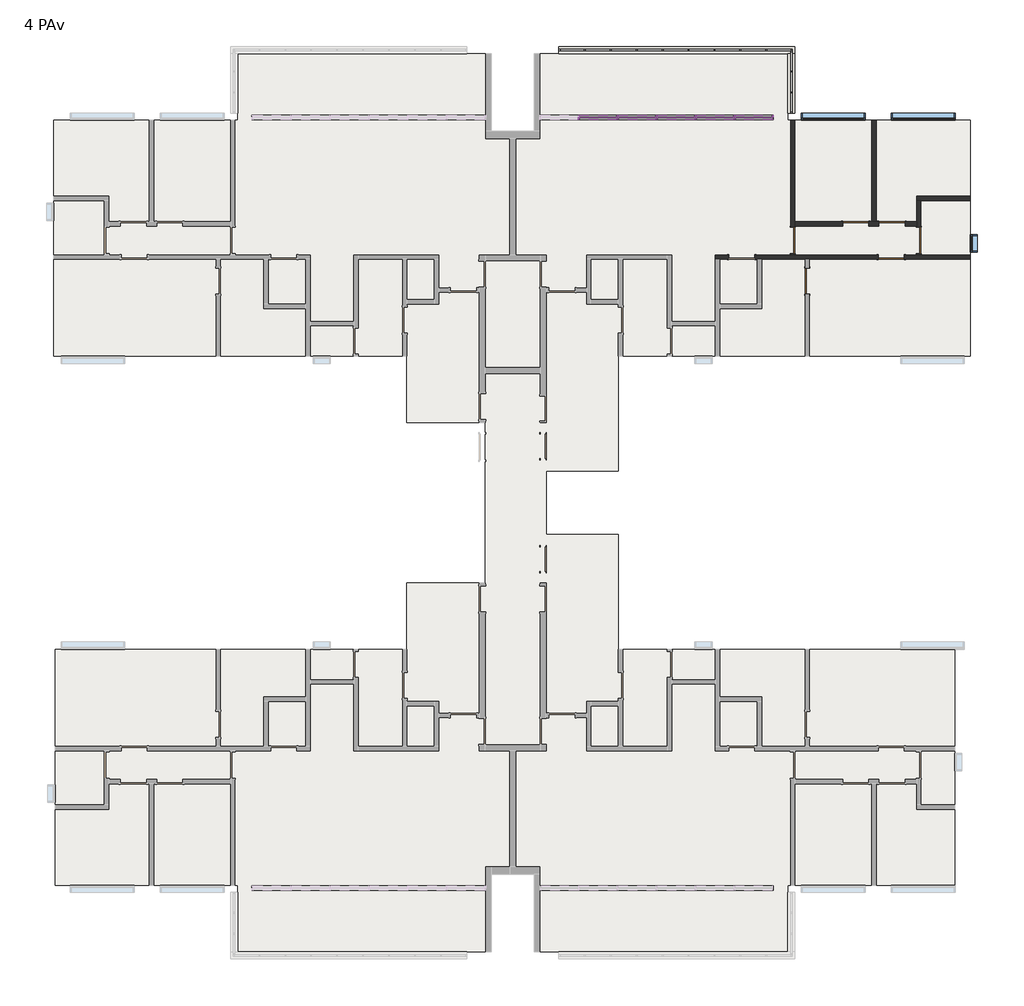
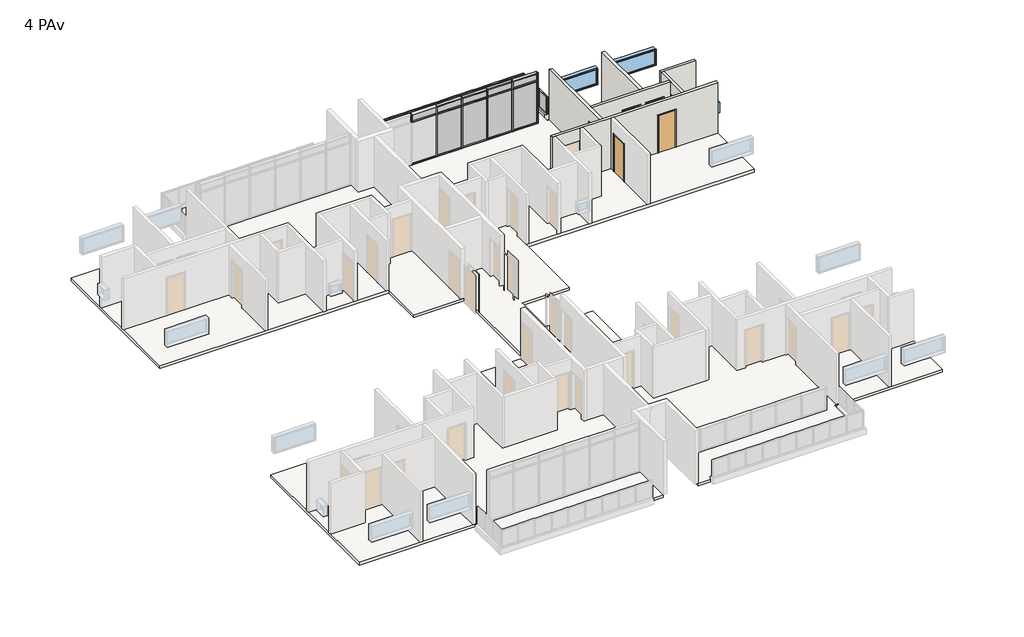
# One storey, part 6 of 6: 63 members, 21 plates, 8 walls, 6 doors, 3 windows, 1 slab.
"""IFC4 building model written with IfcOpenShell, lengths in millimetres."""

from ifc_helpers import new_model, si_unit, frame, origin, place, context, project, spatial, polyline, outline, extrude, faceted_brep, transform, mapped, element, save
from components import door_90_x_210_ee935524, door_90_x_210_565370b3, montante_retangular_50_mm_quadrado_84e40a56, montante_retangular_50_mm_quadrado_3d152aff, montante_retangular_50_mm_quadrado_a01005a4, montante_retangular_50_mm_quadrado_ddd80bd7, montante_retangular_50_mm_quadrado_4acded50, montante_retangular_50_mm_quadrado_237d7072, montante_retangular_50_x_150_mm_6217edde, montante_retangular_50_x_150_mm_a22249d7, montante_retangular_50_x_150_mm_6225e4e3, montante_retangular_50_x_150_mm_0a8c3443, montante_retangular_50_x_150_mm_567eccab, montante_retangular_50_x_150_mm_1ca2bba2, montante_retangular_50_x_150_mm_6abf4531, montante_retangular_50_x_150_mm_662c37b1, painel_do_sistema_0196877a, painel_do_sistema_2aa81470, painel_do_sistema_57ceaf50, painel_do_sistema_ab0ed719, painel_do_sistema_1ecb5f42, painel_do_sistema_49db1829, painel_do_sistema_5ea5287b, painel_do_sistema_7730abee, window_0610_x_0610_mm_b5667cc9, window_220_x_90_cea65aae

model = new_model("IFC4")

# Units and contexts
model_context = context("Model", 3, world=origin())
ifc_project = project(units=[si_unit("LENGTHUNIT", "METRE", prefix="MILLI")], contexts=[model_context])

# Site, building, storey
site = spatial("IfcSite", under=ifc_project)
building = spatial("IfcBuilding", under=site)
storey = spatial("IfcBuildingStorey", under=building, Name="4 PAv", Elevation=12000.0)

# Doors
placement = place(None, origin())
door_90_x_210_shape = door_90_x_210_ee935524(model_context)
element("IfcDoor", 1, ObjectType="M_Descarga simples : 90 x 210", at=placement, inside=storey, context=model_context, shape_type="MappedRepresentation", body=[
    mapped(door_90_x_210_shape, transform((9138.7734258, 8433.6614625, 12000.0), x_axis=(0.0, 1.0, 0.0), y_axis=(-1.0, 0.0, 0.0), z_axis=(0.0, 0.0, 1.0))),
])
element("IfcDoor", 2, ObjectType="M_Descarga simples : 90 x 210", at=placement, inside=storey, context=model_context, shape_type="MappedRepresentation", body=[
    mapped(door_90_x_210_shape, transform((8638.7734258, 9833.6614625, 12000.0), x_axis=(0.0, -1.0, 0.0), y_axis=(1.0, 0.0, 0.0), z_axis=(0.0, 0.0, 1.0))),
])
element("IfcDoor", 3, ObjectType="M_Descarga simples : 90 x 210", at=placement, inside=storey, context=model_context, shape_type="MappedRepresentation", body=[
    mapped(door_90_x_210_shape, transform((12988.7734258, 9833.6614625, 12000.0), x_axis=(0.0, -1.0, 0.0), y_axis=(1.0, 0.0, 0.0), z_axis=(0.0, 0.0, 1.0))),
])
element("IfcDoor", 4, ObjectType="M_Descarga simples : 90 x 210", at=placement, inside=storey, context=model_context, shape_type="MappedRepresentation", body=[
    mapped(door_90_x_210_shape, transform((10813.7734258, 10408.6614625, 12000.0), x_axis=(1.0, 0.0, 0.0), y_axis=(0.0, 1.0, 0.0), z_axis=(0.0, 0.0, 1.0))),
])
door_90_x_210_2_shape = door_90_x_210_565370b3(model_context)
element("IfcDoor", 5, ObjectType="M_Descarga simples : 90 x 210", at=placement, inside=storey, context=model_context, shape_type="MappedRepresentation", body=[
    mapped(door_90_x_210_2_shape, transform((12063.7734258, 10408.6614625, 12000.0), x_axis=(-1.0, 0.0, 0.0), y_axis=(0.0, -1.0, 0.0), z_axis=(0.0, 0.0, 1.0))),
])
element("IfcDoor", 6, ObjectType="M_Descarga simples : 90 x 210", at=placement, inside=storey, context=model_context, shape_type="MappedRepresentation", body=[
    mapped(door_90_x_210_2_shape, transform((12043.7734258, 9258.6614625, 12000.0), x_axis=(1.0, 0.0, 0.0), y_axis=(0.0, 1.0, 0.0), z_axis=(0.0, 0.0, 1.0))),
])

# Members
montante_retangular_50_mm_quadrado_shape = montante_retangular_50_mm_quadrado_84e40a56(model_context)
element("IfcMember", 7, ObjectType="Montante retangular : 50 mm Quadrado", at=placement, inside=storey, context=model_context, shape_type="MappedRepresentation", body=[
    mapped(montante_retangular_50_mm_quadrado_shape, transform((8588.7734258, 15663.6614625, 12150.0), x_axis=(0.0, -1.0, 0.0), y_axis=(-1.0, 0.0, 0.0), z_axis=(0.0, 0.0, -1.0))),
])
element("IfcMember", 8, ObjectType="Montante retangular : 50 mm Quadrado", at=placement, inside=storey, context=model_context, shape_type="MappedRepresentation", body=[
    mapped(montante_retangular_50_mm_quadrado_shape, transform((8588.7734258, 14948.6614625, 12150.0), x_axis=(0.0, -1.0, 0.0), y_axis=(-1.0, 0.0, 0.0), z_axis=(0.0, 0.0, -1.0))),
])
element("IfcMember", 9, ObjectType="Montante retangular : 50 mm Quadrado", at=placement, inside=storey, context=model_context, shape_type="MappedRepresentation", body=[
    mapped(montante_retangular_50_mm_quadrado_shape, transform((1453.7734258, 16403.6614625, 12150.0), x_axis=(1.0, 0.0, 0.0), y_axis=(0.0, -1.0, 0.0), z_axis=(0.0, 0.0, -1.0))),
])
element("IfcMember", 10, ObjectType="Montante retangular : 50 mm Quadrado", at=placement, inside=storey, context=model_context, shape_type="MappedRepresentation", body=[
    mapped(montante_retangular_50_mm_quadrado_shape, transform((2348.7734258, 16403.6614625, 12150.0), x_axis=(1.0, 0.0, 0.0), y_axis=(0.0, -1.0, 0.0), z_axis=(0.0, 0.0, -1.0))),
])
element("IfcMember", 11, ObjectType="Montante retangular : 50 mm Quadrado", at=placement, inside=storey, context=model_context, shape_type="MappedRepresentation", body=[
    mapped(montante_retangular_50_mm_quadrado_shape, transform((3243.7734258, 16403.6614625, 12150.0), x_axis=(1.0, 0.0, 0.0), y_axis=(0.0, -1.0, 0.0), z_axis=(0.0, 0.0, -1.0))),
])
element("IfcMember", 12, ObjectType="Montante retangular : 50 mm Quadrado", at=placement, inside=storey, context=model_context, shape_type="MappedRepresentation", body=[
    mapped(montante_retangular_50_mm_quadrado_shape, transform((4138.7734258, 16403.6614625, 12150.0), x_axis=(1.0, 0.0, 0.0), y_axis=(0.0, -1.0, 0.0), z_axis=(0.0, 0.0, -1.0))),
])
element("IfcMember", 13, ObjectType="Montante retangular : 50 mm Quadrado", at=placement, inside=storey, context=model_context, shape_type="MappedRepresentation", body=[
    mapped(montante_retangular_50_mm_quadrado_shape, transform((5033.7734258, 16403.6614625, 12150.0), x_axis=(1.0, 0.0, 0.0), y_axis=(0.0, -1.0, 0.0), z_axis=(0.0, 0.0, -1.0))),
])
element("IfcMember", 14, ObjectType="Montante retangular : 50 mm Quadrado", at=placement, inside=storey, context=model_context, shape_type="MappedRepresentation", body=[
    mapped(montante_retangular_50_mm_quadrado_shape, transform((5928.7734258, 16403.6614625, 12150.0), x_axis=(1.0, 0.0, 0.0), y_axis=(0.0, -1.0, 0.0), z_axis=(0.0, 0.0, -1.0))),
])
element("IfcMember", 15, ObjectType="Montante retangular : 50 mm Quadrado", at=placement, inside=storey, context=model_context, shape_type="MappedRepresentation", body=[
    mapped(montante_retangular_50_mm_quadrado_shape, transform((6823.7734258, 16403.6614625, 12150.0), x_axis=(1.0, 0.0, 0.0), y_axis=(0.0, -1.0, 0.0), z_axis=(0.0, 0.0, -1.0))),
])
element("IfcMember", 16, ObjectType="Montante retangular : 50 mm Quadrado", at=placement, inside=storey, context=model_context, shape_type="MappedRepresentation", body=[
    mapped(montante_retangular_50_mm_quadrado_shape, transform((7718.7734258, 16403.6614625, 12150.0), x_axis=(1.0, 0.0, 0.0), y_axis=(0.0, -1.0, 0.0), z_axis=(0.0, 0.0, -1.0))),
])
montante_retangular_50_mm_quadrado_2_shape = montante_retangular_50_mm_quadrado_3d152aff(model_context)
element("IfcMember", 17, ObjectType="Montante retangular : 50 mm Quadrado", at=placement, inside=storey, context=model_context, shape_type="MappedRepresentation", body=[
    mapped(montante_retangular_50_mm_quadrado_2_shape, transform((8588.7734258, 14233.6614625, 12150.0), x_axis=(0.0, -1.0, 0.0), y_axis=(-1.0, 0.0, 0.0), z_axis=(0.0, 0.0, -1.0))),
])
element("IfcMember", 18, ObjectType="Montante retangular : 50 mm Quadrado", at=placement, inside=storey, context=model_context, shape_type="MappedRepresentation", body=[
    mapped(montante_retangular_50_mm_quadrado_2_shape, transform((8613.7734258, 16403.6614625, 12150.0), x_axis=(1.0, 0.0, 0.0), y_axis=(0.0, -1.0, 0.0), z_axis=(0.0, 0.0, -1.0))),
])
element("IfcMember", 19, ObjectType="Montante retangular : 50 mm Quadrado", at=placement, inside=storey, context=model_context, shape_type="MappedRepresentation", body=[
    mapped(montante_retangular_50_mm_quadrado_2_shape, transform((8588.7734258, 16378.6614625, 13150.0), x_axis=(0.0, 1.0, 0.0), y_axis=(-1.0, 0.0, 0.0), z_axis=(0.0, 0.0, 1.0))),
])
element("IfcMember", 20, ObjectType="Montante retangular : 50 mm Quadrado", at=placement, inside=storey, context=model_context, shape_type="MappedRepresentation", body=[
    mapped(montante_retangular_50_mm_quadrado_2_shape, transform((558.7734258, 16403.6614625, 13150.0), x_axis=(-1.0, 0.0, 0.0), y_axis=(0.0, -1.0, 0.0), z_axis=(0.0, 0.0, 1.0))),
])
montante_retangular_50_mm_quadrado_3_shape = montante_retangular_50_mm_quadrado_a01005a4(model_context)
element("IfcMember", 21, ObjectType="Montante retangular : 50 mm Quadrado", at=placement, inside=storey, context=model_context, shape_type="MappedRepresentation", body=[
    mapped(montante_retangular_50_mm_quadrado_3_shape, transform((8588.7734258, 14283.6614625, 13150.0), x_axis=(0.0, 0.0, 1.0), y_axis=(-1.0, 0.0, 0.0), z_axis=(0.0, -1.0, 0.0))),
])
element("IfcMember", 22, ObjectType="Montante retangular : 50 mm Quadrado", at=placement, inside=storey, context=model_context, shape_type="MappedRepresentation", body=[
    mapped(montante_retangular_50_mm_quadrado_3_shape, transform((8588.7734258, 15688.6614625, 13150.0), x_axis=(0.0, 0.0, 1.0), y_axis=(-1.0, 0.0, 0.0), z_axis=(0.0, -1.0, 0.0))),
])
montante_retangular_50_mm_quadrado_4_shape = montante_retangular_50_mm_quadrado_ddd80bd7(model_context)
element("IfcMember", 23, ObjectType="Montante retangular : 50 mm Quadrado", at=placement, inside=storey, context=model_context, shape_type="MappedRepresentation", body=[
    mapped(montante_retangular_50_mm_quadrado_4_shape, transform((8588.7734258, 14973.6614625, 13150.0), x_axis=(0.0, 0.0, 1.0), y_axis=(-1.0, 0.0, 0.0), z_axis=(0.0, -1.0, 0.0))),
])
element("IfcMember", 24, ObjectType="Montante retangular : 50 mm Quadrado", at=placement, inside=storey, context=model_context, shape_type="MappedRepresentation", body=[
    mapped(montante_retangular_50_mm_quadrado_3_shape, transform((8588.7734258, 16328.6614625, 12150.0), x_axis=(0.0, 0.0, -1.0), y_axis=(-1.0, 0.0, 0.0), z_axis=(0.0, 1.0, 0.0))),
])
element("IfcMember", 25, ObjectType="Montante retangular : 50 mm Quadrado", at=placement, inside=storey, context=model_context, shape_type="MappedRepresentation", body=[
    mapped(montante_retangular_50_mm_quadrado_3_shape, transform((8588.7734258, 14923.6614625, 12150.0), x_axis=(0.0, 0.0, -1.0), y_axis=(-1.0, 0.0, 0.0), z_axis=(0.0, 1.0, 0.0))),
])
element("IfcMember", 26, ObjectType="Montante retangular : 50 mm Quadrado", at=placement, inside=storey, context=model_context, shape_type="MappedRepresentation", body=[
    mapped(montante_retangular_50_mm_quadrado_4_shape, transform((8588.7734258, 15638.6614625, 12150.0), x_axis=(0.0, 0.0, -1.0), y_axis=(-1.0, 0.0, 0.0), z_axis=(0.0, 1.0, 0.0))),
])
montante_retangular_50_mm_quadrado_5_shape = montante_retangular_50_mm_quadrado_4acded50(model_context)
element("IfcMember", 27, ObjectType="Montante retangular : 50 mm Quadrado", at=placement, inside=storey, context=model_context, shape_type="MappedRepresentation", body=[
    mapped(montante_retangular_50_mm_quadrado_5_shape, transform((8563.7734258, 16403.6614625, 13150.0), x_axis=(0.0, 0.0, 1.0), y_axis=(0.0, -1.0, 0.0), z_axis=(1.0, 0.0, 0.0))),
])
element("IfcMember", 28, ObjectType="Montante retangular : 50 mm Quadrado", at=placement, inside=storey, context=model_context, shape_type="MappedRepresentation", body=[
    mapped(montante_retangular_50_mm_quadrado_5_shape, transform((1428.7734258, 16403.6614625, 13150.0), x_axis=(0.0, 0.0, 1.0), y_axis=(0.0, -1.0, 0.0), z_axis=(1.0, 0.0, 0.0))),
])
montante_retangular_50_mm_quadrado_6_shape = montante_retangular_50_mm_quadrado_237d7072(model_context)
element("IfcMember", 29, ObjectType="Montante retangular : 50 mm Quadrado", at=placement, inside=storey, context=model_context, shape_type="MappedRepresentation", body=[
    mapped(montante_retangular_50_mm_quadrado_6_shape, transform((2323.7734258, 16403.6614625, 13150.0), x_axis=(0.0, 0.0, 1.0), y_axis=(0.0, -1.0, 0.0), z_axis=(1.0, 0.0, 0.0))),
])
element("IfcMember", 30, ObjectType="Montante retangular : 50 mm Quadrado", at=placement, inside=storey, context=model_context, shape_type="MappedRepresentation", body=[
    mapped(montante_retangular_50_mm_quadrado_6_shape, transform((3218.7734258, 16403.6614625, 13150.0), x_axis=(0.0, 0.0, 1.0), y_axis=(0.0, -1.0, 0.0), z_axis=(1.0, 0.0, 0.0))),
])
element("IfcMember", 31, ObjectType="Montante retangular : 50 mm Quadrado", at=placement, inside=storey, context=model_context, shape_type="MappedRepresentation", body=[
    mapped(montante_retangular_50_mm_quadrado_6_shape, transform((4113.7734258, 16403.6614625, 13150.0), x_axis=(0.0, 0.0, 1.0), y_axis=(0.0, -1.0, 0.0), z_axis=(1.0, 0.0, 0.0))),
])
element("IfcMember", 32, ObjectType="Montante retangular : 50 mm Quadrado", at=placement, inside=storey, context=model_context, shape_type="MappedRepresentation", body=[
    mapped(montante_retangular_50_mm_quadrado_6_shape, transform((5008.7734258, 16403.6614625, 13150.0), x_axis=(0.0, 0.0, 1.0), y_axis=(0.0, -1.0, 0.0), z_axis=(1.0, 0.0, 0.0))),
])
element("IfcMember", 33, ObjectType="Montante retangular : 50 mm Quadrado", at=placement, inside=storey, context=model_context, shape_type="MappedRepresentation", body=[
    mapped(montante_retangular_50_mm_quadrado_6_shape, transform((5903.7734258, 16403.6614625, 13150.0), x_axis=(0.0, 0.0, 1.0), y_axis=(0.0, -1.0, 0.0), z_axis=(1.0, 0.0, 0.0))),
])
element("IfcMember", 34, ObjectType="Montante retangular : 50 mm Quadrado", at=placement, inside=storey, context=model_context, shape_type="MappedRepresentation", body=[
    mapped(montante_retangular_50_mm_quadrado_6_shape, transform((6798.7734258, 16403.6614625, 13150.0), x_axis=(0.0, 0.0, 1.0), y_axis=(0.0, -1.0, 0.0), z_axis=(1.0, 0.0, 0.0))),
])
element("IfcMember", 35, ObjectType="Montante retangular : 50 mm Quadrado", at=placement, inside=storey, context=model_context, shape_type="MappedRepresentation", body=[
    mapped(montante_retangular_50_mm_quadrado_6_shape, transform((7693.7734258, 16403.6614625, 13150.0), x_axis=(0.0, 0.0, 1.0), y_axis=(0.0, -1.0, 0.0), z_axis=(1.0, 0.0, 0.0))),
])
element("IfcMember", 36, ObjectType="Montante retangular : 50 mm Quadrado", at=placement, inside=storey, context=model_context, shape_type="MappedRepresentation", body=[
    mapped(montante_retangular_50_mm_quadrado_5_shape, transform((608.7734258, 16403.6614625, 12150.0), x_axis=(0.0, 0.0, -1.0), y_axis=(0.0, -1.0, 0.0), z_axis=(-1.0, 0.0, 0.0))),
])
element("IfcMember", 37, ObjectType="Montante retangular : 50 mm Quadrado", at=placement, inside=storey, context=model_context, shape_type="MappedRepresentation", body=[
    mapped(montante_retangular_50_mm_quadrado_5_shape, transform((7743.7734258, 16403.6614625, 12150.0), x_axis=(0.0, 0.0, -1.0), y_axis=(0.0, -1.0, 0.0), z_axis=(-1.0, 0.0, 0.0))),
])
element("IfcMember", 38, ObjectType="Montante retangular : 50 mm Quadrado", at=placement, inside=storey, context=model_context, shape_type="MappedRepresentation", body=[
    mapped(montante_retangular_50_mm_quadrado_6_shape, transform((1478.7734258, 16403.6614625, 12150.0), x_axis=(0.0, 0.0, -1.0), y_axis=(0.0, -1.0, 0.0), z_axis=(-1.0, 0.0, 0.0))),
])
element("IfcMember", 39, ObjectType="Montante retangular : 50 mm Quadrado", at=placement, inside=storey, context=model_context, shape_type="MappedRepresentation", body=[
    mapped(montante_retangular_50_mm_quadrado_6_shape, transform((2373.7734258, 16403.6614625, 12150.0), x_axis=(0.0, 0.0, -1.0), y_axis=(0.0, -1.0, 0.0), z_axis=(-1.0, 0.0, 0.0))),
])
element("IfcMember", 40, ObjectType="Montante retangular : 50 mm Quadrado", at=placement, inside=storey, context=model_context, shape_type="MappedRepresentation", body=[
    mapped(montante_retangular_50_mm_quadrado_6_shape, transform((3268.7734258, 16403.6614625, 12150.0), x_axis=(0.0, 0.0, -1.0), y_axis=(0.0, -1.0, 0.0), z_axis=(-1.0, 0.0, 0.0))),
])
element("IfcMember", 41, ObjectType="Montante retangular : 50 mm Quadrado", at=placement, inside=storey, context=model_context, shape_type="MappedRepresentation", body=[
    mapped(montante_retangular_50_mm_quadrado_6_shape, transform((4163.7734258, 16403.6614625, 12150.0), x_axis=(0.0, 0.0, -1.0), y_axis=(0.0, -1.0, 0.0), z_axis=(-1.0, 0.0, 0.0))),
])
element("IfcMember", 42, ObjectType="Montante retangular : 50 mm Quadrado", at=placement, inside=storey, context=model_context, shape_type="MappedRepresentation", body=[
    mapped(montante_retangular_50_mm_quadrado_6_shape, transform((5058.7734258, 16403.6614625, 12150.0), x_axis=(0.0, 0.0, -1.0), y_axis=(0.0, -1.0, 0.0), z_axis=(-1.0, 0.0, 0.0))),
])
element("IfcMember", 43, ObjectType="Montante retangular : 50 mm Quadrado", at=placement, inside=storey, context=model_context, shape_type="MappedRepresentation", body=[
    mapped(montante_retangular_50_mm_quadrado_6_shape, transform((5953.7734258, 16403.6614625, 12150.0), x_axis=(0.0, 0.0, -1.0), y_axis=(0.0, -1.0, 0.0), z_axis=(-1.0, 0.0, 0.0))),
])
element("IfcMember", 44, ObjectType="Montante retangular : 50 mm Quadrado", at=placement, inside=storey, context=model_context, shape_type="MappedRepresentation", body=[
    mapped(montante_retangular_50_mm_quadrado_6_shape, transform((6848.7734258, 16403.6614625, 12150.0), x_axis=(0.0, 0.0, -1.0), y_axis=(0.0, -1.0, 0.0), z_axis=(-1.0, 0.0, 0.0))),
])
montante_retangular_50_x_150_mm_shape = montante_retangular_50_x_150_mm_6217edde(model_context)
element("IfcMember", 45, ObjectType="Montante retangular : 50 x 150 mm", at=placement, inside=storey, context=model_context, shape_type="MappedRepresentation", body=[
    mapped(montante_retangular_50_x_150_mm_shape, transform((6654.6067592, 14083.6614625, 14850.0), x_axis=(0.0, 0.0, 1.0), y_axis=(0.0, 1.0, 0.0), z_axis=(-1.0, 0.0, 0.0))),
])
montante_retangular_50_x_150_mm_2_shape = montante_retangular_50_x_150_mm_a22249d7(model_context)
element("IfcMember", 46, ObjectType="Montante retangular : 50 x 150 mm", at=placement, inside=storey, context=model_context, shape_type="MappedRepresentation", body=[
    mapped(montante_retangular_50_x_150_mm_2_shape, transform((5310.4400925, 14083.6614625, 14850.0), x_axis=(0.0, 0.0, 1.0), y_axis=(0.0, 1.0, 0.0), z_axis=(-1.0, 0.0, 0.0))),
])
element("IfcMember", 47, ObjectType="Montante retangular : 50 x 150 mm", at=placement, inside=storey, context=model_context, shape_type="MappedRepresentation", body=[
    mapped(montante_retangular_50_x_150_mm_2_shape, transform((3966.2734258, 14083.6614625, 14850.0), x_axis=(0.0, 0.0, 1.0), y_axis=(0.0, 1.0, 0.0), z_axis=(-1.0, 0.0, 0.0))),
])
element("IfcMember", 48, ObjectType="Montante retangular : 50 x 150 mm", at=placement, inside=storey, context=model_context, shape_type="MappedRepresentation", body=[
    mapped(montante_retangular_50_x_150_mm_2_shape, transform((2622.1067592, 14083.6614625, 14850.0), x_axis=(0.0, 0.0, 1.0), y_axis=(0.0, 1.0, 0.0), z_axis=(-1.0, 0.0, 0.0))),
])
element("IfcMember", 49, ObjectType="Montante retangular : 50 x 150 mm", at=placement, inside=storey, context=model_context, shape_type="MappedRepresentation", body=[
    mapped(montante_retangular_50_x_150_mm_shape, transform((7923.7734258, 14083.6614625, 12000.0), x_axis=(0.0, 0.0, -1.0), y_axis=(0.0, 1.0, 0.0), z_axis=(1.0, 0.0, 0.0))),
])
element("IfcMember", 50, ObjectType="Montante retangular : 50 x 150 mm", at=placement, inside=storey, context=model_context, shape_type="MappedRepresentation", body=[
    mapped(montante_retangular_50_x_150_mm_2_shape, transform((6604.6067592, 14083.6614625, 12000.0), x_axis=(0.0, 0.0, -1.0), y_axis=(0.0, 1.0, 0.0), z_axis=(1.0, 0.0, 0.0))),
])
element("IfcMember", 51, ObjectType="Montante retangular : 50 x 150 mm", at=placement, inside=storey, context=model_context, shape_type="MappedRepresentation", body=[
    mapped(montante_retangular_50_x_150_mm_2_shape, transform((5260.4400925, 14083.6614625, 12000.0), x_axis=(0.0, 0.0, -1.0), y_axis=(0.0, 1.0, 0.0), z_axis=(1.0, 0.0, 0.0))),
])
element("IfcMember", 52, ObjectType="Montante retangular : 50 x 150 mm", at=placement, inside=storey, context=model_context, shape_type="MappedRepresentation", body=[
    mapped(montante_retangular_50_x_150_mm_2_shape, transform((3916.2734258, 14083.6614625, 12000.0), x_axis=(0.0, 0.0, -1.0), y_axis=(0.0, 1.0, 0.0), z_axis=(1.0, 0.0, 0.0))),
])
element("IfcMember", 53, ObjectType="Montante retangular : 50 x 150 mm", at=placement, inside=storey, context=model_context, shape_type="MappedRepresentation", body=[
    mapped(montante_retangular_50_x_150_mm_2_shape, transform((2572.1067592, 14083.6614625, 12000.0), x_axis=(0.0, 0.0, -1.0), y_axis=(0.0, 1.0, 0.0), z_axis=(1.0, 0.0, 0.0))),
])
montante_retangular_50_x_150_mm_3_shape = montante_retangular_50_x_150_mm_6225e4e3(model_context)
element("IfcMember", 54, ObjectType="Montante retangular : 50 x 150 mm", at=placement, inside=storey, context=model_context, shape_type="MappedRepresentation", body=[
    mapped(montante_retangular_50_x_150_mm_3_shape, transform((6629.6067592, 14083.6614625, 12000.0), x_axis=(-1.0, 0.0, 0.0), y_axis=(0.0, 1.0, 0.0), z_axis=(0.0, 0.0, -1.0))),
])
element("IfcMember", 55, ObjectType="Montante retangular : 50 x 150 mm", at=placement, inside=storey, context=model_context, shape_type="MappedRepresentation", body=[
    mapped(montante_retangular_50_x_150_mm_3_shape, transform((5285.4400925, 14083.6614625, 12000.0), x_axis=(-1.0, 0.0, 0.0), y_axis=(0.0, 1.0, 0.0), z_axis=(0.0, 0.0, -1.0))),
])
element("IfcMember", 56, ObjectType="Montante retangular : 50 x 150 mm", at=placement, inside=storey, context=model_context, shape_type="MappedRepresentation", body=[
    mapped(montante_retangular_50_x_150_mm_3_shape, transform((3941.2734258, 14083.6614625, 12000.0), x_axis=(-1.0, 0.0, 0.0), y_axis=(0.0, 1.0, 0.0), z_axis=(0.0, 0.0, -1.0))),
])
element("IfcMember", 57, ObjectType="Montante retangular : 50 x 150 mm", at=placement, inside=storey, context=model_context, shape_type="MappedRepresentation", body=[
    mapped(montante_retangular_50_x_150_mm_3_shape, transform((2597.1067592, 14083.6614625, 12000.0), x_axis=(-1.0, 0.0, 0.0), y_axis=(0.0, 1.0, 0.0), z_axis=(0.0, 0.0, -1.0))),
])
montante_retangular_50_x_150_mm_4_shape = montante_retangular_50_x_150_mm_0a8c3443(model_context)
element("IfcMember", 58, ObjectType="Montante retangular : 50 x 150 mm", at=placement, inside=storey, context=model_context, shape_type="MappedRepresentation", body=[
    mapped(montante_retangular_50_x_150_mm_4_shape, transform((7973.7734258, 14083.6614625, 14850.0), x_axis=(1.0, 0.0, 0.0), y_axis=(0.0, 1.0, 0.0), z_axis=(0.0, 0.0, 1.0))),
])
montante_retangular_50_x_150_mm_5_shape = montante_retangular_50_x_150_mm_567eccab(model_context)
element("IfcMember", 59, ObjectType="Montante retangular : 50 x 150 mm", at=placement, inside=storey, context=model_context, shape_type="MappedRepresentation", body=[
    mapped(montante_retangular_50_x_150_mm_5_shape, transform((6629.6067592, 14083.6614625, 14400.0), x_axis=(-1.0, 0.0, 0.0), y_axis=(0.0, 1.0, 0.0), z_axis=(0.0, 0.0, -1.0))),
])
element("IfcMember", 60, ObjectType="Montante retangular : 50 x 150 mm", at=placement, inside=storey, context=model_context, shape_type="MappedRepresentation", body=[
    mapped(montante_retangular_50_x_150_mm_5_shape, transform((5285.4400925, 14083.6614625, 14400.0), x_axis=(-1.0, 0.0, 0.0), y_axis=(0.0, 1.0, 0.0), z_axis=(0.0, 0.0, -1.0))),
])
element("IfcMember", 61, ObjectType="Montante retangular : 50 x 150 mm", at=placement, inside=storey, context=model_context, shape_type="MappedRepresentation", body=[
    mapped(montante_retangular_50_x_150_mm_5_shape, transform((3941.2734258, 14083.6614625, 14400.0), x_axis=(-1.0, 0.0, 0.0), y_axis=(0.0, 1.0, 0.0), z_axis=(0.0, 0.0, -1.0))),
])
element("IfcMember", 62, ObjectType="Montante retangular : 50 x 150 mm", at=placement, inside=storey, context=model_context, shape_type="MappedRepresentation", body=[
    mapped(montante_retangular_50_x_150_mm_5_shape, transform((2597.1067592, 14083.6614625, 14400.0), x_axis=(-1.0, 0.0, 0.0), y_axis=(0.0, 1.0, 0.0), z_axis=(0.0, 0.0, -1.0))),
])
element("IfcMember", 63, ObjectType="Montante retangular : 50 x 150 mm", at=placement, inside=storey, context=model_context, shape_type="MappedRepresentation", body=[
    mapped(montante_retangular_50_x_150_mm_5_shape, transform((1252.9400925, 14083.6614625, 14400.0), x_axis=(-1.0, 0.0, 0.0), y_axis=(0.0, 1.0, 0.0), z_axis=(0.0, 0.0, -1.0))),
])
montante_retangular_50_x_150_mm_6_shape = montante_retangular_50_x_150_mm_1ca2bba2(model_context)
element("IfcMember", 64, ObjectType="Montante retangular : 50 x 150 mm", at=placement, inside=storey, context=model_context, shape_type="MappedRepresentation", body=[
    mapped(montante_retangular_50_x_150_mm_6_shape, transform((6654.6067592, 14083.6614625, 14400.0), x_axis=(0.0, 0.0, 1.0), y_axis=(0.0, 1.0, 0.0), z_axis=(-1.0, 0.0, 0.0))),
])
montante_retangular_50_x_150_mm_7_shape = montante_retangular_50_x_150_mm_6abf4531(model_context)
element("IfcMember", 65, ObjectType="Montante retangular : 50 x 150 mm", at=placement, inside=storey, context=model_context, shape_type="MappedRepresentation", body=[
    mapped(montante_retangular_50_x_150_mm_7_shape, transform((5310.4400925, 14083.6614625, 14400.0), x_axis=(0.0, 0.0, 1.0), y_axis=(0.0, 1.0, 0.0), z_axis=(-1.0, 0.0, 0.0))),
])
element("IfcMember", 66, ObjectType="Montante retangular : 50 x 150 mm", at=placement, inside=storey, context=model_context, shape_type="MappedRepresentation", body=[
    mapped(montante_retangular_50_x_150_mm_7_shape, transform((3966.2734258, 14083.6614625, 14400.0), x_axis=(0.0, 0.0, 1.0), y_axis=(0.0, 1.0, 0.0), z_axis=(-1.0, 0.0, 0.0))),
])
element("IfcMember", 67, ObjectType="Montante retangular : 50 x 150 mm", at=placement, inside=storey, context=model_context, shape_type="MappedRepresentation", body=[
    mapped(montante_retangular_50_x_150_mm_7_shape, transform((2622.1067592, 14083.6614625, 14400.0), x_axis=(0.0, 0.0, 1.0), y_axis=(0.0, 1.0, 0.0), z_axis=(-1.0, 0.0, 0.0))),
])
element("IfcMember", 68, ObjectType="Montante retangular : 50 x 150 mm", at=placement, inside=storey, context=model_context, shape_type="MappedRepresentation", body=[
    mapped(montante_retangular_50_x_150_mm_7_shape, transform((1277.9400925, 14083.6614625, 14400.0), x_axis=(0.0, 0.0, 1.0), y_axis=(0.0, 1.0, 0.0), z_axis=(-1.0, 0.0, 0.0))),
])
montante_retangular_50_x_150_mm_8_shape = montante_retangular_50_x_150_mm_662c37b1(model_context)
element("IfcMember", 69, ObjectType="Montante retangular : 50 x 150 mm", at=placement, inside=storey, context=model_context, shape_type="MappedRepresentation", body=[
    mapped(montante_retangular_50_x_150_mm_8_shape, transform((7973.7734258, 14083.6614625, 14400.0), x_axis=(1.0, 0.0, 0.0), y_axis=(0.0, 1.0, 0.0), z_axis=(0.0, 0.0, 1.0))),
])

# Plates
painel_do_sistema_shape = painel_do_sistema_0196877a(model_context)
element("IfcPlate", 70, ObjectType="Painel do sistema : Envidraçado", at=placement, inside=storey, context=model_context, shape_type="MappedRepresentation", body=[
    mapped(painel_do_sistema_shape, transform((8588.7734258, 16008.6614625, 12200.0), x_axis=(0.0, -1.0, 0.0), y_axis=(1.0, 0.0, 0.0), z_axis=(0.0, 0.0, 1.0))),
])
element("IfcPlate", 71, ObjectType="Painel do sistema : Envidraçado", at=placement, inside=storey, context=model_context, shape_type="MappedRepresentation", body=[
    mapped(painel_do_sistema_shape, transform((8588.7734258, 14603.6614625, 12200.0), x_axis=(0.0, -1.0, 0.0), y_axis=(1.0, 0.0, 0.0), z_axis=(0.0, 0.0, 1.0))),
])
painel_do_sistema_2_shape = painel_do_sistema_2aa81470(model_context)
element("IfcPlate", 72, ObjectType="Painel do sistema : Envidraçado", at=placement, inside=storey, context=model_context, shape_type="MappedRepresentation", body=[
    mapped(painel_do_sistema_2_shape, transform((8588.7734258, 15306.1614625, 12200.0), x_axis=(0.0, -1.0, 0.0), y_axis=(1.0, 0.0, 0.0), z_axis=(0.0, 0.0, 1.0))),
])
painel_do_sistema_3_shape = painel_do_sistema_57ceaf50(model_context)
element("IfcPlate", 73, ObjectType="Painel do sistema : Envidraçado", at=placement, inside=storey, context=model_context, shape_type="MappedRepresentation", body=[
    mapped(painel_do_sistema_3_shape, transform((1018.7734258, 16403.6614625, 12200.0), x_axis=(1.0, 0.0, 0.0), y_axis=(0.0, 1.0, 0.0), z_axis=(0.0, 0.0, 1.0))),
])
element("IfcPlate", 74, ObjectType="Painel do sistema : Envidraçado", at=placement, inside=storey, context=model_context, shape_type="MappedRepresentation", body=[
    mapped(painel_do_sistema_3_shape, transform((8153.7734258, 16403.6614625, 12200.0), x_axis=(1.0, 0.0, 0.0), y_axis=(0.0, 1.0, 0.0), z_axis=(0.0, 0.0, 1.0))),
])
painel_do_sistema_4_shape = painel_do_sistema_ab0ed719(model_context)
element("IfcPlate", 75, ObjectType="Painel do sistema : Envidraçado", at=placement, inside=storey, context=model_context, shape_type="MappedRepresentation", body=[
    mapped(painel_do_sistema_4_shape, transform((1901.2734258, 16403.6614625, 12200.0), x_axis=(1.0, 0.0, 0.0), y_axis=(0.0, 1.0, 0.0), z_axis=(0.0, 0.0, 1.0))),
])
element("IfcPlate", 76, ObjectType="Painel do sistema : Envidraçado", at=placement, inside=storey, context=model_context, shape_type="MappedRepresentation", body=[
    mapped(painel_do_sistema_4_shape, transform((2796.2734258, 16403.6614625, 12200.0), x_axis=(1.0, 0.0, 0.0), y_axis=(0.0, 1.0, 0.0), z_axis=(0.0, 0.0, 1.0))),
])
element("IfcPlate", 77, ObjectType="Painel do sistema : Envidraçado", at=placement, inside=storey, context=model_context, shape_type="MappedRepresentation", body=[
    mapped(painel_do_sistema_4_shape, transform((3691.2734258, 16403.6614625, 12200.0), x_axis=(1.0, 0.0, 0.0), y_axis=(0.0, 1.0, 0.0), z_axis=(0.0, 0.0, 1.0))),
])
element("IfcPlate", 78, ObjectType="Painel do sistema : Envidraçado", at=placement, inside=storey, context=model_context, shape_type="MappedRepresentation", body=[
    mapped(painel_do_sistema_4_shape, transform((4586.2734258, 16403.6614625, 12200.0), x_axis=(1.0, 0.0, 0.0), y_axis=(0.0, 1.0, 0.0), z_axis=(0.0, 0.0, 1.0))),
])
element("IfcPlate", 79, ObjectType="Painel do sistema : Envidraçado", at=placement, inside=storey, context=model_context, shape_type="MappedRepresentation", body=[
    mapped(painel_do_sistema_4_shape, transform((5481.2734258, 16403.6614625, 12200.0), x_axis=(1.0, 0.0, 0.0), y_axis=(0.0, 1.0, 0.0), z_axis=(0.0, 0.0, 1.0))),
])
element("IfcPlate", 80, ObjectType="Painel do sistema : Envidraçado", at=placement, inside=storey, context=model_context, shape_type="MappedRepresentation", body=[
    mapped(painel_do_sistema_4_shape, transform((6376.2734258, 16403.6614625, 12200.0), x_axis=(1.0, 0.0, 0.0), y_axis=(0.0, 1.0, 0.0), z_axis=(0.0, 0.0, 1.0))),
])
element("IfcPlate", 81, ObjectType="Painel do sistema : Envidraçado", at=placement, inside=storey, context=model_context, shape_type="MappedRepresentation", body=[
    mapped(painel_do_sistema_4_shape, transform((7271.2734258, 16403.6614625, 12200.0), x_axis=(1.0, 0.0, 0.0), y_axis=(0.0, 1.0, 0.0), z_axis=(0.0, 0.0, 1.0))),
])
painel_do_sistema_5_shape = painel_do_sistema_1ecb5f42(model_context)
element("IfcPlate", 82, ObjectType="Painel do sistema : Envidraçado", at=placement, inside=storey, context=model_context, shape_type="MappedRepresentation", body=[
    mapped(painel_do_sistema_5_shape, transform((7289.1900925, 14083.6614625, 12050.0), x_axis=(-1.0, 0.0, 0.0), y_axis=(0.0, -1.0, 0.0), z_axis=(0.0, 0.0, 1.0))),
])
painel_do_sistema_6_shape = painel_do_sistema_49db1829(model_context)
element("IfcPlate", 83, ObjectType="Painel do sistema : Envidraçado", at=placement, inside=storey, context=model_context, shape_type="MappedRepresentation", body=[
    mapped(painel_do_sistema_6_shape, transform((5957.5234258, 14083.6614625, 12050.0), x_axis=(-1.0, 0.0, 0.0), y_axis=(0.0, -1.0, 0.0), z_axis=(0.0, 0.0, 1.0))),
])
element("IfcPlate", 84, ObjectType="Painel do sistema : Envidraçado", at=placement, inside=storey, context=model_context, shape_type="MappedRepresentation", body=[
    mapped(painel_do_sistema_6_shape, transform((4613.3567592, 14083.6614625, 12050.0), x_axis=(-1.0, 0.0, 0.0), y_axis=(0.0, -1.0, 0.0), z_axis=(0.0, 0.0, 1.0))),
])
element("IfcPlate", 85, ObjectType="Painel do sistema : Envidraçado", at=placement, inside=storey, context=model_context, shape_type="MappedRepresentation", body=[
    mapped(painel_do_sistema_6_shape, transform((3269.1900925, 14083.6614625, 12050.0), x_axis=(-1.0, 0.0, 0.0), y_axis=(0.0, -1.0, 0.0), z_axis=(0.0, 0.0, 1.0))),
])
painel_do_sistema_7_shape = painel_do_sistema_5ea5287b(model_context)
element("IfcPlate", 86, ObjectType="Painel do sistema : Envidraçado", at=placement, inside=storey, context=model_context, shape_type="MappedRepresentation", body=[
    mapped(painel_do_sistema_7_shape, transform((7289.1900925, 14083.6614625, 14425.0), x_axis=(-1.0, 0.0, 0.0), y_axis=(0.0, -1.0, 0.0), z_axis=(0.0, 0.0, 1.0))),
])
painel_do_sistema_8_shape = painel_do_sistema_7730abee(model_context)
element("IfcPlate", 87, ObjectType="Painel do sistema : Envidraçado", at=placement, inside=storey, context=model_context, shape_type="MappedRepresentation", body=[
    mapped(painel_do_sistema_8_shape, transform((5957.5234258, 14083.6614625, 14425.0), x_axis=(-1.0, 0.0, 0.0), y_axis=(0.0, -1.0, 0.0), z_axis=(0.0, 0.0, 1.0))),
])
element("IfcPlate", 88, ObjectType="Painel do sistema : Envidraçado", at=placement, inside=storey, context=model_context, shape_type="MappedRepresentation", body=[
    mapped(painel_do_sistema_8_shape, transform((4613.3567592, 14083.6614625, 14425.0), x_axis=(-1.0, 0.0, 0.0), y_axis=(0.0, -1.0, 0.0), z_axis=(0.0, 0.0, 1.0))),
])
element("IfcPlate", 89, ObjectType="Painel do sistema : Envidraçado", at=placement, inside=storey, context=model_context, shape_type="MappedRepresentation", body=[
    mapped(painel_do_sistema_8_shape, transform((3269.1900925, 14083.6614625, 14425.0), x_axis=(-1.0, 0.0, 0.0), y_axis=(0.0, -1.0, 0.0), z_axis=(0.0, 0.0, 1.0))),
])
element("IfcPlate", 90, ObjectType="Painel do sistema : Envidraçado", at=placement, inside=storey, context=model_context, shape_type="MappedRepresentation", body=[
    mapped(painel_do_sistema_8_shape, transform((1925.0234258, 14083.6614625, 14425.0), x_axis=(-1.0, 0.0, 0.0), y_axis=(0.0, -1.0, 0.0), z_axis=(0.0, 0.0, 1.0))),
])

# Slab
element("IfcSlab", 91, ObjectType="Genérico 150 mm", at=placement, inside=storey, context=model_context, shape_type="SweptSolid", body=[
    extrude(outline(polyline([(-4676.2265742, -4286.3385375), (-4676.2265742, -1996.3385375), (-1976.2265742, -1996.3385375), (-1976.2265742, 3543.6614625), (-4676.2265742, 3543.6614625), (-4676.2265742, 5833.6614625), (-16866.2265742, 5833.6614625), (-16866.2265742, 13983.6614625), (-10516.2265742, 13983.6614625), (-10516.2265742, 16278.6614625), (-1961.2265742, 16278.6614625), (-1961.2265742, 13353.6614625), (-91.2265742, 13353.6614625), (-91.2265742, 16278.6614625), (8463.7734258, 16278.6614625), (8463.7734258, 13983.6614625), (14763.7734258, 13983.6614625), (14763.7734258, 5833.6614625), (2623.7734258, 5833.6614625), (2623.7734258, 1863.6614625), (123.7734258, 1863.6614625), (123.7734258, -316.3385375), (2623.7734258, -316.3385375), (2623.7734258, -4286.3385375), (14223.269929, -4286.3385375), (14223.269929, -12436.3385375), (8463.7734258, -12436.3385375), (8463.7734258, -14731.3385375), (-91.2265742, -14731.3385375), (-91.2265742, -11806.3385375), (-1961.2265742, -11806.3385375), (-1961.2265742, -14731.3385375), (-10516.2265742, -14731.3385375), (-10516.2265742, -12436.3385375), (-16816.2265742, -12436.3385375), (-16816.2265742, -4286.3385375), (-4676.2265742, -4286.3385375)])), frame((0.0, 0.0, 11850.0), z_axis=(0.0, 0.0, 1.0), x_axis=(1.0, 0.0, 0.0)), (0.0, 0.0, 1.0), 150.0),
])

# Walls
element("IfcWall", 92, ObjectType="Exeterna 25", at=placement, inside=storey, context=model_context, shape_type="Brep", body=[
    faceted_brep([(558.7734258, 16278.6614625, 11850.0), (8463.7734258, 16278.6614625, 11850.0), (8713.7734258, 16278.6614625, 11850.0), (8713.7734258, 16278.6614625, 12150.0), (8463.7734258, 16278.6614625, 12150.0), (558.7734258, 16278.6614625, 12150.0), (558.7734258, 16528.6614625, 11850.0), (558.7734258, 16528.6614625, 12150.0), (8713.7734258, 16528.6614625, 12150.0), (8713.7734258, 16528.6614625, 11850.0)], [[[0, 1, 2, 3, 4, 5]], [[6, 7, 8, 9]], [[2, 1, 0, 6, 9]], [[5, 4, 3, 8, 7]], [[0, 5, 7, 6]], [[3, 2, 9, 8]]]),
])
element("IfcWall", 93, ObjectType="Exeterna 25", at=placement, inside=storey, context=model_context, shape_type="SweptSolid", body=[
    extrude(outline(polyline([(8463.7734258, 14233.6614625), (8463.7734258, 16278.6614625), (8713.7734258, 16278.6614625), (8713.7734258, 14233.6614625), (8463.7734258, 14233.6614625)])), frame((0.0, 0.0, 11850.0), z_axis=(0.0, 0.0, 1.0), x_axis=(1.0, 0.0, 0.0)), (0.0, 0.0, 1.0), 300.0),
])
element("IfcWall", 94, ObjectType="Interna 15", at=placement, inside=storey, context=model_context, shape_type="Brep", body=[
    faceted_brep([(8563.7734258, 9383.6614625, 14100.0), (8563.7734258, 9383.6614625, 12000.0), (8563.7734258, 9333.6614625, 12000.0), (8563.7734258, 9333.6614625, 14850.0), (8563.7734258, 13983.6614625, 14850.0), (8563.7734258, 13983.6614625, 12000.0), (8563.7734258, 10283.6614625, 12000.0), (8563.7734258, 10283.6614625, 14100.0), (8713.7734258, 9333.6614625, 12000.0), (8713.7734258, 9383.6614625, 12000.0), (8713.7734258, 9383.6614625, 14100.0), (8713.7734258, 10283.6614625, 14100.0), (8713.7734258, 10283.6614625, 12000.0), (8713.7734258, 10333.6614625, 12000.0), (8713.7734258, 10483.6614625, 12000.0), (8713.7734258, 13983.6614625, 12000.0), (8713.7734258, 13983.6614625, 14850.0), (8713.7734258, 10483.6614625, 14850.0), (8713.7734258, 10333.6614625, 14850.0), (8713.7734258, 9333.6614625, 14850.0)], [[[0, 1, 2, 3, 4, 5, 6, 7]], [[8, 9, 10, 11, 12, 13, 14, 15, 16, 17, 18, 19]], [[6, 5, 15, 14, 13, 12]], [[2, 1, 9, 8]], [[4, 3, 19, 18, 17, 16]], [[3, 2, 8, 19]], [[10, 9, 1, 0]], [[11, 10, 0, 7]], [[12, 11, 7, 6]], [[5, 4, 16, 15]]]),
])
element("IfcWall", 95, ObjectType="Interna 15", at=placement, inside=storey, context=model_context, shape_type="Brep", body=[
    faceted_brep([(11263.7734258, 10333.6614625, 12000.0), (11613.7734258, 10333.6614625, 12000.0), (11613.7734258, 10333.6614625, 14100.0), (12513.7734258, 10333.6614625, 14100.0), (12513.7734258, 10333.6614625, 12000.0), (12913.7734258, 10333.6614625, 12000.0), (12913.7734258, 10333.6614625, 14850.0), (8713.7734258, 10333.6614625, 14850.0), (8713.7734258, 10333.6614625, 12000.0), (10363.7734258, 10333.6614625, 12000.0), (10363.7734258, 10333.6614625, 14100.0), (11263.7734258, 10333.6614625, 14100.0), (11613.7734258, 10483.6614625, 14100.0), (11613.7734258, 10483.6614625, 12000.0), (11513.7734258, 10483.6614625, 12000.0), (11363.7734258, 10483.6614625, 12000.0), (11263.7734258, 10483.6614625, 12000.0), (11263.7734258, 10483.6614625, 14100.0), (10363.7734258, 10483.6614625, 14100.0), (10363.7734258, 10483.6614625, 12000.0), (8713.7734258, 10483.6614625, 12000.0), (8713.7734258, 10483.6614625, 14850.0), (11363.7734258, 10483.6614625, 14850.0), (11513.7734258, 10483.6614625, 14850.0), (12913.7734258, 10483.6614625, 14850.0), (12913.7734258, 10483.6614625, 12000.0), (12513.7734258, 10483.6614625, 12000.0), (12513.7734258, 10483.6614625, 14100.0)], [[[0, 1, 2, 3, 4, 5, 6, 7, 8, 9, 10, 11]], [[12, 13, 14, 15, 16, 17, 18, 19, 20, 21, 22, 23, 24, 25, 26, 27]], [[9, 8, 20, 19]], [[26, 25, 5, 4]], [[16, 15, 14, 13, 1, 0]], [[7, 6, 24, 23, 22, 21]], [[8, 7, 21, 20]], [[6, 5, 25, 24]], [[2, 1, 13, 12]], [[3, 2, 12, 27]], [[4, 3, 27, 26]], [[17, 16, 0, 11]], [[18, 17, 11, 10]], [[19, 18, 10, 9]]]),
])
element("IfcWall", 96, ObjectType="Interna 15", at=placement, inside=storey, context=model_context, shape_type="SweptSolid", body=[
    extrude(outline(polyline([(11513.7734258, 13983.6614625), (11513.7734258, 10483.6614625), (11363.7734258, 10483.6614625), (11363.7734258, 13983.6614625), (11513.7734258, 13983.6614625)])), frame((0.0, 0.0, 12000.0), z_axis=(0.0, 0.0, 1.0), x_axis=(1.0, 0.0, 0.0)), (0.0, 0.0, 1.0), 2850.0),
])
element("IfcWall", 97, ObjectType="Interna 15", at=placement, inside=storey, context=model_context, shape_type="Brep", body=[
    faceted_brep([(14763.7734258, 11363.6614625, 12000.0), (12913.7734258, 11363.6614625, 12000.0), (12913.7734258, 11363.6614625, 14850.0), (14763.7734258, 11363.6614625, 14850.0), (14763.7734258, 11213.6614625, 12000.0), (14763.7734258, 11213.6614625, 14850.0), (13063.7734258, 11213.6614625, 14850.0), (12913.7734258, 11213.6614625, 14850.0), (12913.7734258, 11213.6614625, 12000.0), (13063.7734258, 11213.6614625, 12000.0)], [[[0, 1, 2, 3]], [[4, 5, 6, 7, 8, 9]], [[1, 0, 4, 9, 8]], [[3, 2, 7, 6, 5]], [[2, 1, 8, 7]], [[0, 3, 5, 4]]]),
])
element("IfcWall", 98, ObjectType="Interna 15", at=placement, inside=storey, context=model_context, shape_type="Brep", body=[
    faceted_brep([(12913.7734258, 9383.6614625, 14100.0), (12913.7734258, 9383.6614625, 12000.0), (12913.7734258, 9333.6614625, 12000.0), (12913.7734258, 9333.6614625, 14850.0), (12913.7734258, 10333.6614625, 14850.0), (12913.7734258, 10483.6614625, 14850.0), (12913.7734258, 11213.6614625, 14850.0), (12913.7734258, 11213.6614625, 12000.0), (12913.7734258, 10483.6614625, 12000.0), (12913.7734258, 10333.6614625, 12000.0), (12913.7734258, 10283.6614625, 12000.0), (12913.7734258, 10283.6614625, 14100.0), (13063.7734258, 9333.6614625, 12000.0), (13063.7734258, 9383.6614625, 12000.0), (13063.7734258, 9383.6614625, 14100.0), (13063.7734258, 10283.6614625, 14100.0), (13063.7734258, 10283.6614625, 12000.0), (13063.7734258, 11213.6614625, 12000.0), (13063.7734258, 11213.6614625, 14850.0), (13063.7734258, 9333.6614625, 14850.0)], [[[0, 1, 2, 3, 4, 5, 6, 7, 8, 9, 10, 11]], [[12, 13, 14, 15, 16, 17, 18, 19]], [[2, 1, 13, 12]], [[10, 9, 8, 7, 17, 16]], [[6, 5, 4, 3, 19, 18]], [[3, 2, 12, 19]], [[7, 6, 18, 17]], [[14, 13, 1, 0]], [[15, 14, 0, 11]], [[16, 15, 11, 10]]]),
])
element("IfcWall", 99, ObjectType="Interna 15", at=placement, inside=storey, context=model_context, shape_type="Brep", body=[
    faceted_brep([(11593.7734258, 9333.6614625, 12000.0), (8713.7734258, 9333.6614625, 12000.0), (8563.7734258, 9333.6614625, 12000.0), (7333.7734258, 9333.6614625, 12000.0), (7333.7734258, 9333.6614625, 14100.0), (6433.7734258, 9333.6614625, 14100.0), (6433.7734258, 9333.6614625, 12000.0), (5963.7734258, 9333.6614625, 12000.0), (5963.7734258, 9333.6614625, 14850.0), (8563.7734258, 9333.6614625, 14850.0), (8713.7734258, 9333.6614625, 14850.0), (12913.7734258, 9333.6614625, 14850.0), (13063.7734258, 9333.6614625, 14850.0), (14763.7734258, 9333.6614625, 14850.0), (14763.7734258, 9333.6614625, 12000.0), (13063.7734258, 9333.6614625, 12000.0), (12913.7734258, 9333.6614625, 12000.0), (12493.7734258, 9333.6614625, 12000.0), (12493.7734258, 9333.6614625, 14100.0), (11593.7734258, 9333.6614625, 14100.0), (7333.7734258, 9183.6614625, 14100.0), (7333.7734258, 9183.6614625, 12000.0), (7413.7734258, 9183.6614625, 12000.0), (7563.7734258, 9183.6614625, 12000.0), (9063.7734258, 9183.6614625, 12000.0), (9213.7734258, 9183.6614625, 12000.0), (11593.7734258, 9183.6614625, 12000.0), (11593.7734258, 9183.6614625, 14100.0), (12493.7734258, 9183.6614625, 14100.0), (12493.7734258, 9183.6614625, 12000.0), (14763.7734258, 9183.6614625, 12000.0), (14763.7734258, 9183.6614625, 14850.0), (9213.7734258, 9183.6614625, 14850.0), (9063.7734258, 9183.6614625, 14850.0), (7563.7734258, 9183.6614625, 14850.0), (7413.7734258, 9183.6614625, 14850.0), (6113.7734258, 9183.6614625, 14850.0), (5963.7734258, 9183.6614625, 14850.0), (5963.7734258, 9183.6614625, 12000.0), (6113.7734258, 9183.6614625, 12000.0), (6433.7734258, 9183.6614625, 12000.0), (6433.7734258, 9183.6614625, 14100.0)], [[[0, 1, 2, 3, 4, 5, 6, 7, 8, 9, 10, 11, 12, 13, 14, 15, 16, 17, 18, 19]], [[20, 21, 22, 23, 24, 25, 26, 27, 28, 29, 30, 31, 32, 33, 34, 35, 36, 37, 38, 39, 40, 41]], [[30, 29, 17, 16, 15, 14]], [[40, 39, 38, 7, 6]], [[26, 25, 24, 23, 22, 21, 3, 2, 1, 0]], [[13, 12, 11, 10, 9, 8, 37, 36, 35, 34, 33, 32, 31]], [[8, 7, 38, 37]], [[4, 3, 21, 20]], [[5, 4, 20, 41]], [[6, 5, 41, 40]], [[18, 17, 29, 28]], [[19, 18, 28, 27]], [[0, 19, 27, 26]], [[14, 13, 31, 30]]]),
])

# Windows
window_0610_x_0610_mm_shape = window_0610_x_0610_mm_b5667cc9(model_context)
element("IfcWindow", 100, ObjectType="M_Fixado : 0610 x 0610 mm", at=placement, inside=storey, context=model_context, shape_type="MappedRepresentation", body=[
    mapped(window_0610_x_0610_mm_shape, transform((14901.7734258, 9733.6614625, 12000.0), x_axis=(0.0, -1.0, 0.0), y_axis=(1.0, 0.0, 0.0), z_axis=(0.0, 0.0, 1.0))),
])
window_220_x_90_shape = window_220_x_90_cea65aae(model_context)
element("IfcWindow", 101, ObjectType="M_Fixado : 220 x 90", at=placement, inside=storey, context=model_context, shape_type="MappedRepresentation", body=[
    mapped(window_220_x_90_shape, transform((10038.7734258, 14121.6614625, 12185.0), x_axis=(-1.0, 0.0, 0.0), y_axis=(0.0, -1.0, 0.0), z_axis=(0.0, 0.0, 1.0))),
])
element("IfcWindow", 102, ObjectType="M_Fixado : 220 x 90", at=placement, inside=storey, context=model_context, shape_type="MappedRepresentation", body=[
    mapped(window_220_x_90_shape, transform((13138.7734258, 14121.6614625, 12185.0), x_axis=(-1.0, 0.0, 0.0), y_axis=(0.0, -1.0, 0.0), z_axis=(0.0, 0.0, 1.0))),
])

save(model, "model.ifc")
